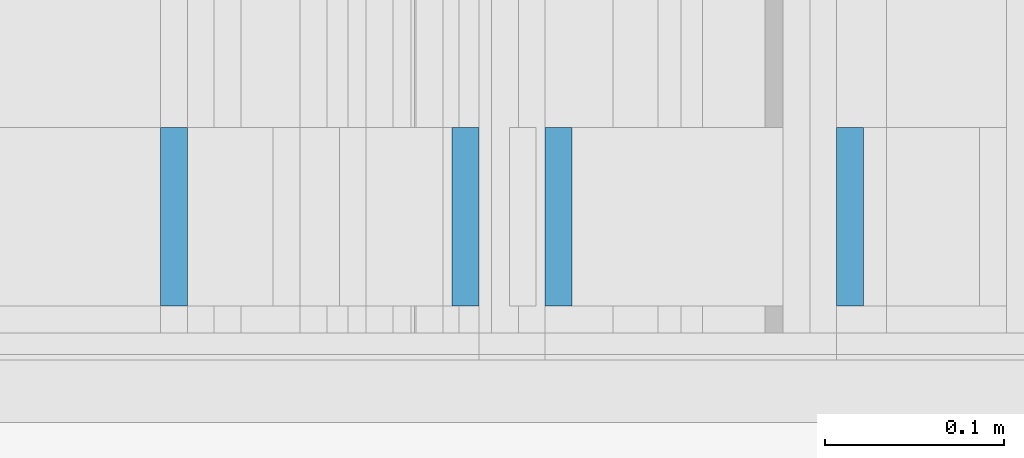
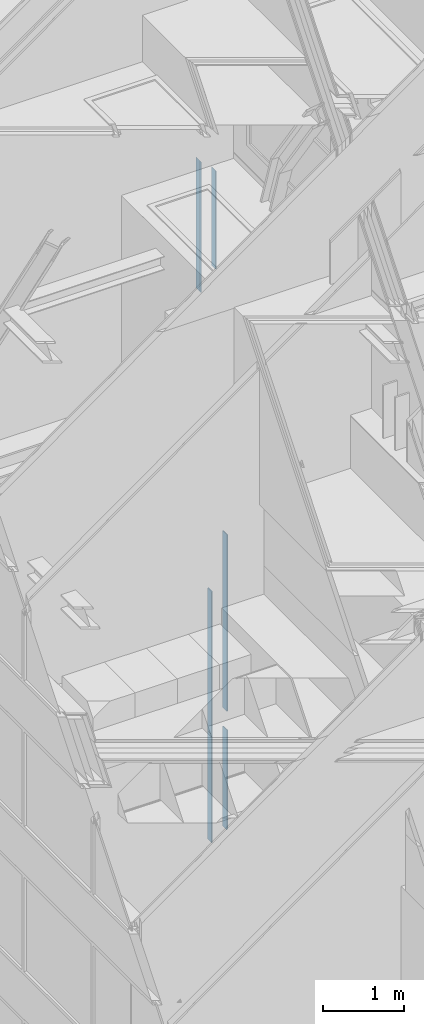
# One storey, part 139 of 583: 6 building element parts, 3 elements without a shape of their own.
"""IFC2X3 building model written with IfcOpenShell, lengths in metres."""

from ifc_helpers import new_model, entity, si_unit, converted_unit, derived_unit, money_unit, direction, frame, frame_2d, origin_with_axes, place, context, subcontext, project, spatial, polyline, rectangle, outline, extrude, material, type_object, element, aggregate, save


model = new_model("IFC2X3")

# Units and contexts
model_context = context("Model", 3, precision=1e-05, world=origin_with_axes(), true_north=direction((0.0, 1.0)))
body_context = subcontext(model_context, "Body", "Model", "MODEL_VIEW", scale=1.0)
ifc_project = project(units=[si_unit("LENGTHUNIT", "METRE"), si_unit("AREAUNIT", "SQUARE_METRE"), si_unit("VOLUMEUNIT", "CUBIC_METRE"), si_unit("ABSORBEDDOSEUNIT", "GRAY"), si_unit("AMOUNTOFSUBSTANCEUNIT", "MOLE"), si_unit("DOSEEQUIVALENTUNIT", "SIEVERT"), si_unit("ELECTRICCAPACITANCEUNIT", "FARAD"), si_unit("ELECTRICCHARGEUNIT", "COULOMB"), si_unit("ELECTRICCONDUCTANCEUNIT", "SIEMENS"), si_unit("ELECTRICCURRENTUNIT", "AMPERE"), si_unit("ELECTRICRESISTANCEUNIT", "OHM"), si_unit("ELECTRICVOLTAGEUNIT", "VOLT"), si_unit("ENERGYUNIT", "JOULE"), si_unit("FORCEUNIT", "NEWTON"), si_unit("FREQUENCYUNIT", "HERTZ"), si_unit("ILLUMINANCEUNIT", "LUX"), si_unit("INDUCTANCEUNIT", "HENRY"), si_unit("LUMINOUSFLUXUNIT", "LUMEN"), si_unit("LUMINOUSINTENSITYUNIT", "CANDELA"), si_unit("MAGNETICFLUXDENSITYUNIT", "TESLA"), si_unit("MAGNETICFLUXUNIT", "WEBER"), si_unit("MASSUNIT", "GRAM"), converted_unit("PLANEANGLEUNIT", "degree", entity("IfcReal", 0.0174532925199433), si_unit("PLANEANGLEUNIT", "RADIAN"), dimensions=[0, 0, 0, 0, 0, 0, 0]), si_unit("POWERUNIT", "WATT"), si_unit("PRESSUREUNIT", "PASCAL"), si_unit("RADIOACTIVITYUNIT", "BECQUEREL"), si_unit("SOLIDANGLEUNIT", "STERADIAN"), si_unit("THERMODYNAMICTEMPERATUREUNIT", "KELVIN"), si_unit("TIMEUNIT", "SECOND"), derived_unit("ACCELERATIONUNIT", [(si_unit("LENGTHUNIT", "METRE"), 1), (si_unit("TIMEUNIT", "SECOND"), -2)]), derived_unit("ANGULARVELOCITYUNIT", [(converted_unit("PLANEANGLEUNIT", "degree", entity("IfcReal", 0.0174532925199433), si_unit("PLANEANGLEUNIT", "RADIAN"), dimensions=[0, 0, 0, 0, 0, 0, 0]), 1), (si_unit("TIMEUNIT", "SECOND"), -1)]), derived_unit("CURVATUREUNIT", [(converted_unit("PLANEANGLEUNIT", "degree", entity("IfcReal", 0.0174532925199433), si_unit("PLANEANGLEUNIT", "RADIAN"), dimensions=[0, 0, 0, 0, 0, 0, 0]), 1), (si_unit("LENGTHUNIT", "METRE"), -1)]), derived_unit("DYNAMICVISCOSITYUNIT", [(si_unit("PRESSUREUNIT", "PASCAL"), 1), (si_unit("TIMEUNIT", "SECOND"), 1)]), derived_unit("HEATFLUXDENSITYUNIT", [(si_unit("POWERUNIT", "WATT"), 1), (si_unit("LENGTHUNIT", "METRE"), -2)]), derived_unit("HEATINGVALUEUNIT", [(si_unit("ENERGYUNIT", "JOULE"), 1), (si_unit("MASSUNIT", "GRAM"), -1)]), derived_unit("INTEGERCOUNTRATEUNIT", [(si_unit("TIMEUNIT", "SECOND"), -1)]), derived_unit("IONCONCENTRATIONUNIT", [(si_unit("MASSUNIT", "GRAM"), 1), (si_unit("VOLUMEUNIT", "CUBIC_METRE"), -1)]), derived_unit("ISOTHERMALMOISTURECAPACITYUNIT", [(si_unit("VOLUMEUNIT", "CUBIC_METRE"), 1), (si_unit("MASSUNIT", "GRAM"), -1)]), derived_unit("KINEMATICVISCOSITYUNIT", [(si_unit("AREAUNIT", "SQUARE_METRE"), 1), (si_unit("TIMEUNIT", "SECOND"), -1)]), derived_unit("LINEARFORCEUNIT", [(si_unit("FORCEUNIT", "NEWTON"), 1), (si_unit("LENGTHUNIT", "METRE"), -1)]), derived_unit("LINEARMOMENTUNIT", [(si_unit("FORCEUNIT", "NEWTON"), 1), (si_unit("LENGTHUNIT", "METRE"), -1)]), derived_unit("LINEARSTIFFNESSUNIT", [(si_unit("FORCEUNIT", "NEWTON"), 1), (si_unit("LENGTHUNIT", "METRE"), -1)]), derived_unit("LINEARVELOCITYUNIT", [(si_unit("LENGTHUNIT", "METRE"), 1), (si_unit("TIMEUNIT", "SECOND"), -1)]), derived_unit("LUMINOUSINTENSITYDISTRIBUTIONUNIT", [(si_unit("LUMINOUSINTENSITYUNIT", "CANDELA"), 1), (si_unit("LUMINOUSFLUXUNIT", "LUMEN"), -1)]), derived_unit("MASSDENSITYUNIT", [(si_unit("MASSUNIT", "GRAM"), 1), (si_unit("VOLUMEUNIT", "CUBIC_METRE"), -1)]), derived_unit("MASSFLOWRATEUNIT", [(si_unit("MASSUNIT", "GRAM"), 1), (si_unit("TIMEUNIT", "SECOND"), -1)]), derived_unit("MASSPERLENGTHUNIT", [(si_unit("MASSUNIT", "GRAM"), 1), (si_unit("LENGTHUNIT", "METRE"), -1)]), derived_unit("MODULUSOFELASTICITYUNIT", [(si_unit("FORCEUNIT", "NEWTON"), 1), (si_unit("AREAUNIT", "SQUARE_METRE"), -1)]), derived_unit("MODULUSOFLINEARSUBGRADEREACTIONUNIT", [(si_unit("FORCEUNIT", "NEWTON"), 1), (si_unit("LENGTHUNIT", "METRE"), -2)]), derived_unit("MODULUSOFROTATIONALSUBGRADEREACTIONUNIT", [(si_unit("FORCEUNIT", "NEWTON"), 1), (si_unit("LENGTHUNIT", "METRE"), 1)]), derived_unit("MODULUSOFSUBGRADEREACTIONUNIT", [(si_unit("FORCEUNIT", "NEWTON"), 1), (si_unit("VOLUMEUNIT", "CUBIC_METRE"), -1)]), derived_unit("MOISTUREDIFFUSIVITYUNIT", [(si_unit("VOLUMEUNIT", "CUBIC_METRE"), 1), (si_unit("TIMEUNIT", "SECOND"), -1)]), derived_unit("MOLECULARWEIGHTUNIT", [(si_unit("MASSUNIT", "GRAM"), 1), (si_unit("AMOUNTOFSUBSTANCEUNIT", "MOLE"), -1)]), derived_unit("PLANARFORCEUNIT", [(si_unit("FORCEUNIT", "NEWTON"), 1), (si_unit("LENGTHUNIT", "METRE"), -2)]), derived_unit("ROTATIONALFREQUENCYUNIT", [(si_unit("TIMEUNIT", "SECOND"), -1)]), derived_unit("ROTATIONALMASSUNIT", [(si_unit("MASSUNIT", "GRAM"), 1), (si_unit("LENGTHUNIT", "METRE"), 2)]), derived_unit("ROTATIONALSTIFFNESSUNIT", [(si_unit("FORCEUNIT", "NEWTON"), 1), (si_unit("LENGTHUNIT", "METRE"), 1), (converted_unit("PLANEANGLEUNIT", "degree", entity("IfcReal", 0.0174532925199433), si_unit("PLANEANGLEUNIT", "RADIAN"), dimensions=[0, 0, 0, 0, 0, 0, 0]), -1)]), derived_unit("SECTIONAREAINTEGRALUNIT", [(si_unit("LENGTHUNIT", "METRE"), 5)]), derived_unit("SECTIONMODULUSUNIT", [(si_unit("LENGTHUNIT", "METRE"), 3)]), derived_unit("SHEARMODULUSUNIT", [(si_unit("FORCEUNIT", "NEWTON"), 1), (si_unit("AREAUNIT", "SQUARE_METRE"), -1)]), derived_unit("SOUNDPOWERUNIT", [(si_unit("ENERGYUNIT", "JOULE"), 1), (si_unit("TIMEUNIT", "SECOND"), -1)]), derived_unit("SPECIFICHEATCAPACITYUNIT", [(si_unit("FORCEUNIT", "NEWTON"), 1), (si_unit("MASSUNIT", "GRAM"), -1), (si_unit("THERMODYNAMICTEMPERATUREUNIT", "KELVIN"), -1)]), derived_unit("TEMPERATUREGRADIENTUNIT", [(si_unit("THERMODYNAMICTEMPERATUREUNIT", "KELVIN"), 1), (si_unit("LENGTHUNIT", "METRE"), -1)]), derived_unit("THERMALADMITTANCEUNIT", [(si_unit("POWERUNIT", "WATT"), 1), (si_unit("AREAUNIT", "SQUARE_METRE"), -1), (si_unit("THERMODYNAMICTEMPERATUREUNIT", "KELVIN"), -1)]), derived_unit("THERMALCONDUCTANCEUNIT", [(si_unit("POWERUNIT", "WATT"), 1), (si_unit("LENGTHUNIT", "METRE"), -1), (si_unit("THERMODYNAMICTEMPERATUREUNIT", "KELVIN"), -1)]), derived_unit("THERMALEXPANSIONCOEFFICIENTUNIT", [(si_unit("THERMODYNAMICTEMPERATUREUNIT", "KELVIN"), -1)]), derived_unit("THERMALRESISTANCEUNIT", [(si_unit("AREAUNIT", "SQUARE_METRE"), 1), (si_unit("POWERUNIT", "WATT"), -1)]), derived_unit("THERMALTRANSMITTANCEUNIT", [(si_unit("POWERUNIT", "WATT"), 1), (si_unit("AREAUNIT", "SQUARE_METRE"), -1), (si_unit("THERMODYNAMICTEMPERATUREUNIT", "KELVIN"), -1)]), derived_unit("TORQUEUNIT", [(si_unit("FORCEUNIT", "NEWTON"), 1), (si_unit("LENGTHUNIT", "METRE"), 1)]), derived_unit("VAPORPERMEABILITYUNIT", [(si_unit("MASSUNIT", "GRAM"), 1), (si_unit("TIMEUNIT", "SECOND"), -1)]), derived_unit("VOLUMETRICFLOWRATEUNIT", [(si_unit("VOLUMEUNIT", "CUBIC_METRE"), 1), (si_unit("TIMEUNIT", "SECOND"), -1)]), derived_unit("WARPINGCONSTANTUNIT", [(si_unit("LENGTHUNIT", "METRE"), 6)]), derived_unit("WARPINGMOMENTUNIT", [(si_unit("FORCEUNIT", "NEWTON"), 1), (si_unit("LENGTHUNIT", "METRE"), 2)]), money_unit("GBP")], contexts=[model_context])

# Site, building, storey
site_placement = place(None, origin_with_axes())
site = spatial("IfcSite", under=ifc_project, at=site_placement, Name="Site", CompositionType="ELEMENT")
building_placement = place(site_placement, origin_with_axes())
building = spatial("IfcBuilding", under=site, at=building_placement, Name="Building01", CompositionType="ELEMENT")
storey_placement = place(building_placement, frame((0.0, 0.0, 20.78), z_axis=(0.0, 0.0, 1.0), x_axis=(1.0, 0.0, 0.0)))
storey = spatial("IfcBuildingStorey", under=building, at=storey_placement, Name="RL", CompositionType="ELEMENT", Elevation=20.78)

# Wall, building element parts
wall_type = type_object("IfcWallType", Name="SHE_A-Walls_Type01d_Partywall_200mm_twin", PredefinedType="NOTDEFINED")
wall_1_placement = place(storey_placement, frame((4.955, 14.98, -13.295), z_axis=(0.0, 1.0, 0.0), x_axis=(0.0, 0.0, 1.0)))
wall_1 = element("IfcWall", 1, at=wall_1_placement, inside=storey, type_object=wall_type, Name="1D", ObjectType="SHE_A-Walls_Type01d_Partywall_200mm_twin")
ifc_material = material(Name="A_BSUK_Walls_Timber")
placement_1 = place(wall_1_placement, origin_with_axes())
building_element_part_1 = element("IfcBuildingElementPart", 2, at=placement_1, material=ifc_material, Name="2", context=body_context, shape_type="SweptSolid", body=[
    extrude(outline(polyline([(1.575, 0.14), (0.09, 0.14), (0.075, 0.125), (1.575, 0.125), (1.575, 0.14)])), frame((0.0, 0.0, 0.015), z_axis=(0.0, 0.0, 1.0), x_axis=(1.0, 0.0, 0.0)), (0.0, 0.0, 1.0), 0.1),
])
building_element_part_2 = element("IfcBuildingElementPart", 3, at=placement_1, material=ifc_material, Name="7", context=body_context, shape_type="SweptSolid", body=[
    extrude(rectangle(XDim=1.635, YDim=0.015, at=frame_2d((0.7725, -0.0825), x_axis=(-1.0, 0.0))), frame((0.0, 0.0, 0.015), z_axis=(0.0, 0.0, 1.0), x_axis=(1.0, 0.0, 0.0)), (0.0, 0.0, 1.0), 0.1),
])
aggregate(wall_1, [building_element_part_1, building_element_part_2])

wall_2_placement = place(storey_placement, frame((4.842, 14.98, -3.16656), z_axis=(0.0, 1.0, 0.0), x_axis=(0.0, 0.0, -1.0)))
wall_2 = element("IfcWall", 4, at=wall_2_placement, inside=storey, type_object=wall_type, Name="1D", ObjectType="SHE_A-Walls_Type01d_Partywall_200mm_twin")
placement_2 = place(wall_2_placement, origin_with_axes())
building_element_part_3 = element("IfcBuildingElementPart", 5, at=placement_2, material=ifc_material, Name="2", context=body_context, shape_type="SweptSolid", body=[
    extrude(outline(polyline([(1.82844, 0.14), (-0.14, 0.14), (-0.125, 0.125), (1.84344, 0.125), (1.82844, 0.14)])), frame((0.0, 0.0, 0.015), z_axis=(0.0, 0.0, 1.0), x_axis=(1.0, 0.0, 0.0)), (0.0, 0.0, 1.0), 0.1),
])
building_element_part_4 = element("IfcBuildingElementPart", 6, at=placement_2, material=ifc_material, Name="7", context=body_context, shape_type="SweptSolid", body=[
    extrude(outline(polyline([(1.56, -0.075), (0.075, -0.075), (0.09, -0.09), (1.56, -0.09), (1.56, -0.075)])), frame((0.0, 0.0, 0.015), z_axis=(0.0, 0.0, 1.0), x_axis=(1.0, 0.0, 0.0)), (0.0, 0.0, 1.0), 0.1),
])
aggregate(wall_2, [building_element_part_3, building_element_part_4])

wall_3_placement = place(storey_placement, frame((4.955, 14.98, -11.565), z_axis=(0.0, 1.0, 0.0), x_axis=(0.0, 0.0, 1.0)))
wall_3 = element("IfcWall", 7, at=wall_3_placement, inside=storey, type_object=wall_type, Name="1D", ObjectType="SHE_A-Walls_Type01d_Partywall_200mm_twin")
placement_3 = place(wall_3_placement, origin_with_axes())
building_element_part_5 = element("IfcBuildingElementPart", 8, at=placement_3, material=ifc_material, Name="2", context=body_context, shape_type="SweptSolid", body=[
    extrude(rectangle(XDim=2.660268, YDim=0.015, at=frame_2d((1.455934, 0.1325), x_axis=(-1.0, 0.0))), frame((0.0, 0.0, 0.015), z_axis=(0.0, 0.0, 1.0), x_axis=(1.0, 0.0, 0.0)), (0.0, 0.0, 1.0), 0.1),
])
building_element_part_6 = element("IfcBuildingElementPart", 9, at=placement_3, material=ifc_material, Name="7", context=body_context, shape_type="SweptSolid", body=[
    extrude(rectangle(XDim=2.14, YDim=0.015, at=frame_2d((0.93, -0.0825), x_axis=(-1.0, 0.0))), frame((0.0, 0.0, 0.015), z_axis=(0.0, 0.0, 1.0), x_axis=(1.0, 0.0, 0.0)), (0.0, 0.0, 1.0), 0.1),
])
aggregate(wall_3, [building_element_part_5, building_element_part_6])

save(model, "model.ifc")
